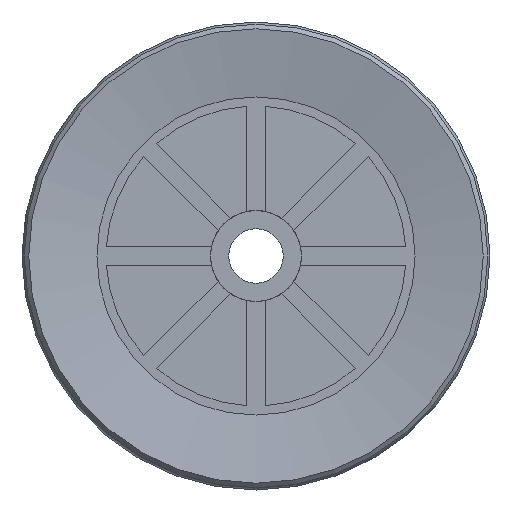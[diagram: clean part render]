
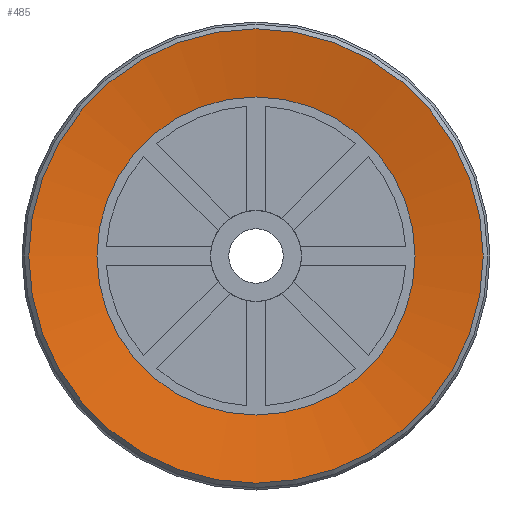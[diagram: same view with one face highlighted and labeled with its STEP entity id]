
A CAD part, front view. The second image highlights one B-rep face of the part: STEP entity #485.
In plain terms, the highlighted conical face has half-angle 80 degrees and reference radius 5 mm.
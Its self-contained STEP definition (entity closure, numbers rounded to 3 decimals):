
#485=ADVANCED_FACE('',(#963,#964),#965,.F.);
#963=FACE_BOUND('',#1527,.T.);
#964=FACE_OUTER_BOUND('',#1528,.T.);
#965=CONICAL_SURFACE('',#1529,5.0,1.396);
#1527=EDGE_LOOP('',(#2237));
#1528=EDGE_LOOP('',(#2238));
#1529=AXIS2_PLACEMENT_3D('',#2239,#2240,#2241);
#2237=ORIENTED_EDGE('',*,*,#2490,.T.);
#2238=ORIENTED_EDGE('',*,*,#2508,.F.);
#2239=CARTESIAN_POINT('',(0.0,0.,0.));
#2240=DIRECTION('',(0.0,0.,-1.0));
#2241=DIRECTION('',(0.0,1.0,0.));
#2490=EDGE_CURVE('',#2741,#2741,#2742,.T.);
#2508=EDGE_CURVE('',#2768,#2768,#2769,.T.);
#2741=VERTEX_POINT('',#3060);
#2742=CIRCLE('',#3061,3.5);
#2768=VERTEX_POINT('',#3092);
#2769=CIRCLE('',#3093,5.0);
#3060=CARTESIAN_POINT('',(0.0,-3.5,0.264));
#3061=AXIS2_PLACEMENT_3D('',#3322,#3323,#3324);
#3092=CARTESIAN_POINT('',(0.0,-5.0,0.));
#3093=AXIS2_PLACEMENT_3D('',#3348,#3349,#3350);
#3322=CARTESIAN_POINT('',(0.0,0.,0.264));
#3323=DIRECTION('',(0.0,0.,1.0));
#3324=DIRECTION('',(0.0,-1.0,0.));
#3348=CARTESIAN_POINT('',(0.0,0.,0.));
#3349=DIRECTION('',(0.0,0.,1.0));
#3350=DIRECTION('',(0.0,-1.0,0.));
